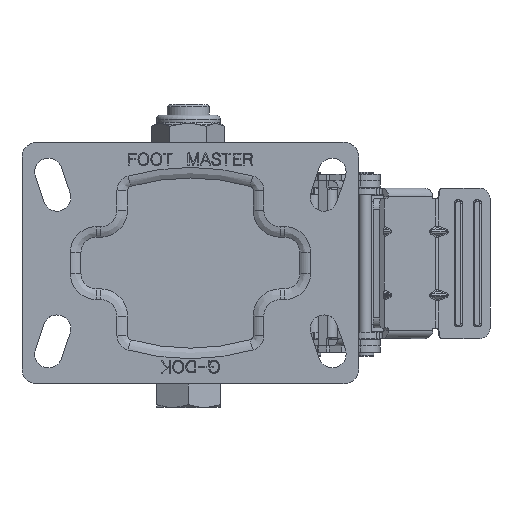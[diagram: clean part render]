
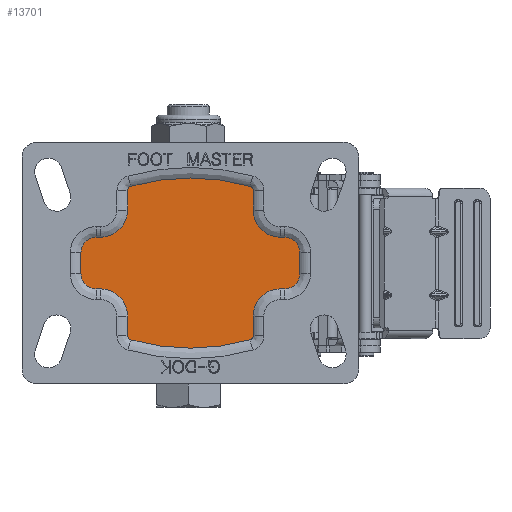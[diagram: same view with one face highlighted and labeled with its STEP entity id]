
A CAD part, top view. The second image highlights one B-rep face of the part: STEP entity #13701.
In plain terms, the highlighted planar face has unit normal (0, 0, 1).
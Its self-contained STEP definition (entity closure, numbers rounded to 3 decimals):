
#13488=CARTESIAN_POINT('',(0.,0.,2.5));
#13489=DIRECTION('',(0.0,0.0,1.0));
#13490=DIRECTION('',(1.0,0.0,0.0));
#13491=AXIS2_PLACEMENT_3D('',#13488,#13489,#13490);
#13492=PLANE('',#13491);
#13493=CARTESIAN_POINT('',(-29.662,-34.164,2.5));
#13494=VERTEX_POINT('',#13493);
#13495=CARTESIAN_POINT('',(-28.092,-36.244,2.5));
#13496=VERTEX_POINT('',#13495);
#13497=CARTESIAN_POINT('',(-27.5,-34.164,2.5));
#13498=DIRECTION('',(0.0,0.0,1.0));
#13499=DIRECTION('',(1.0,0.0,0.0));
#13500=AXIS2_PLACEMENT_3D('',#13497,#13498,#13499);
#13501=CIRCLE('',#13500,2.162);
#13502=EDGE_CURVE('',#13494,#13496,#13501,.T.);
#13503=ORIENTED_EDGE('',*,*,#13502,.T.);
#13504=CARTESIAN_POINT('',(28.092,-36.244,2.5));
#13505=VERTEX_POINT('',#13504);
#13506=CARTESIAN_POINT('',(0.,62.5,2.5));
#13507=DIRECTION('',(0.0,0.0,1.0));
#13508=DIRECTION('',(1.0,0.0,0.0));
#13509=AXIS2_PLACEMENT_3D('',#13506,#13507,#13508);
#13510=CIRCLE('',#13509,102.662);
#13511=EDGE_CURVE('',#13496,#13505,#13510,.T.);
#13512=ORIENTED_EDGE('',*,*,#13511,.T.);
#13513=CARTESIAN_POINT('',(29.662,-34.164,2.5));
#13514=VERTEX_POINT('',#13513);
#13515=CARTESIAN_POINT('',(27.5,-34.164,2.5));
#13516=DIRECTION('',(0.0,0.0,1.0));
#13517=DIRECTION('',(1.0,0.0,0.0));
#13518=AXIS2_PLACEMENT_3D('',#13515,#13516,#13517);
#13519=CIRCLE('',#13518,2.162);
#13520=EDGE_CURVE('',#13505,#13514,#13519,.T.);
#13521=ORIENTED_EDGE('',*,*,#13520,.T.);
#13522=CARTESIAN_POINT('',(29.662,-25.,2.5));
#13523=VERTEX_POINT('',#13522);
#13524=CARTESIAN_POINT('',(29.662,-34.164,2.5));
#13525=DIRECTION('',(0.0,1.0,0.0));
#13526=VECTOR('',#13525,9.164);
#13527=LINE('',#13524,#13526);
#13528=EDGE_CURVE('',#13514,#13523,#13527,.T.);
#13529=ORIENTED_EDGE('',*,*,#13528,.T.);
#13530=CARTESIAN_POINT('',(42.5,-12.162,2.5));
#13531=VERTEX_POINT('',#13530);
#13532=CARTESIAN_POINT('',(42.5,-25.,2.5));
#13533=DIRECTION('',(0.0,0.0,-1.0));
#13534=DIRECTION('',(1.0,0.0,0.0));
#13535=AXIS2_PLACEMENT_3D('',#13532,#13533,#13534);
#13536=CIRCLE('',#13535,12.838);
#13537=EDGE_CURVE('',#13523,#13531,#13536,.T.);
#13538=ORIENTED_EDGE('',*,*,#13537,.T.);
#13539=CARTESIAN_POINT('',(44.5,-12.162,2.5));
#13540=VERTEX_POINT('',#13539);
#13541=CARTESIAN_POINT('',(42.5,-12.162,2.5));
#13542=DIRECTION('',(1.0,0.0,0.0));
#13543=VECTOR('',#13542,2.);
#13544=LINE('',#13541,#13543);
#13545=EDGE_CURVE('',#13531,#13540,#13544,.T.);
#13546=ORIENTED_EDGE('',*,*,#13545,.T.);
#13547=CARTESIAN_POINT('',(51.662,-5.,2.5));
#13548=VERTEX_POINT('',#13547);
#13549=CARTESIAN_POINT('',(44.5,-5.,2.5));
#13550=DIRECTION('',(0.0,0.0,1.0));
#13551=DIRECTION('',(1.0,0.0,0.0));
#13552=AXIS2_PLACEMENT_3D('',#13549,#13550,#13551);
#13553=CIRCLE('',#13552,7.162);
#13554=EDGE_CURVE('',#13540,#13548,#13553,.T.);
#13555=ORIENTED_EDGE('',*,*,#13554,.T.);
#13556=CARTESIAN_POINT('',(51.662,5.,2.5));
#13557=VERTEX_POINT('',#13556);
#13558=CARTESIAN_POINT('',(51.662,-5.,2.5));
#13559=DIRECTION('',(0.0,1.0,0.0));
#13560=VECTOR('',#13559,10.);
#13561=LINE('',#13558,#13560);
#13562=EDGE_CURVE('',#13548,#13557,#13561,.T.);
#13563=ORIENTED_EDGE('',*,*,#13562,.T.);
#13564=CARTESIAN_POINT('',(44.5,12.162,2.5));
#13565=VERTEX_POINT('',#13564);
#13566=CARTESIAN_POINT('',(44.5,5.,2.5));
#13567=DIRECTION('',(0.0,0.0,1.0));
#13568=DIRECTION('',(1.0,0.0,0.0));
#13569=AXIS2_PLACEMENT_3D('',#13566,#13567,#13568);
#13570=CIRCLE('',#13569,7.162);
#13571=EDGE_CURVE('',#13557,#13565,#13570,.T.);
#13572=ORIENTED_EDGE('',*,*,#13571,.T.);
#13573=CARTESIAN_POINT('',(42.5,12.162,2.5));
#13574=VERTEX_POINT('',#13573);
#13575=CARTESIAN_POINT('',(44.5,12.162,2.5));
#13576=DIRECTION('',(-1.0,0.0,0.0));
#13577=VECTOR('',#13576,2.);
#13578=LINE('',#13575,#13577);
#13579=EDGE_CURVE('',#13565,#13574,#13578,.T.);
#13580=ORIENTED_EDGE('',*,*,#13579,.T.);
#13581=CARTESIAN_POINT('',(29.662,25.,2.5));
#13582=VERTEX_POINT('',#13581);
#13583=CARTESIAN_POINT('',(42.5,25.,2.5));
#13584=DIRECTION('',(0.0,0.0,-1.0));
#13585=DIRECTION('',(1.0,0.0,0.0));
#13586=AXIS2_PLACEMENT_3D('',#13583,#13584,#13585);
#13587=CIRCLE('',#13586,12.838);
#13588=EDGE_CURVE('',#13574,#13582,#13587,.T.);
#13589=ORIENTED_EDGE('',*,*,#13588,.T.);
#13590=CARTESIAN_POINT('',(29.662,34.164,2.5));
#13591=VERTEX_POINT('',#13590);
#13592=CARTESIAN_POINT('',(29.662,25.,2.5));
#13593=DIRECTION('',(0.0,1.0,0.0));
#13594=VECTOR('',#13593,9.164);
#13595=LINE('',#13592,#13594);
#13596=EDGE_CURVE('',#13582,#13591,#13595,.T.);
#13597=ORIENTED_EDGE('',*,*,#13596,.T.);
#13598=CARTESIAN_POINT('',(28.092,36.244,2.5));
#13599=VERTEX_POINT('',#13598);
#13600=CARTESIAN_POINT('',(27.5,34.164,2.5));
#13601=DIRECTION('',(0.0,0.0,1.0));
#13602=DIRECTION('',(1.0,0.0,0.0));
#13603=AXIS2_PLACEMENT_3D('',#13600,#13601,#13602);
#13604=CIRCLE('',#13603,2.162);
#13605=EDGE_CURVE('',#13591,#13599,#13604,.T.);
#13606=ORIENTED_EDGE('',*,*,#13605,.T.);
#13607=CARTESIAN_POINT('',(-28.092,36.244,2.5));
#13608=VERTEX_POINT('',#13607);
#13609=CARTESIAN_POINT('',(0.,-62.5,2.5));
#13610=DIRECTION('',(0.0,0.0,1.0));
#13611=DIRECTION('',(1.0,0.0,0.0));
#13612=AXIS2_PLACEMENT_3D('',#13609,#13610,#13611);
#13613=CIRCLE('',#13612,102.662);
#13614=EDGE_CURVE('',#13599,#13608,#13613,.T.);
#13615=ORIENTED_EDGE('',*,*,#13614,.T.);
#13616=CARTESIAN_POINT('',(-29.662,34.164,2.5));
#13617=VERTEX_POINT('',#13616);
#13618=CARTESIAN_POINT('',(-27.5,34.164,2.5));
#13619=DIRECTION('',(0.0,0.0,1.0));
#13620=DIRECTION('',(1.0,0.0,0.0));
#13621=AXIS2_PLACEMENT_3D('',#13618,#13619,#13620);
#13622=CIRCLE('',#13621,2.162);
#13623=EDGE_CURVE('',#13608,#13617,#13622,.T.);
#13624=ORIENTED_EDGE('',*,*,#13623,.T.);
#13625=CARTESIAN_POINT('',(-29.662,25.,2.5));
#13626=VERTEX_POINT('',#13625);
#13627=CARTESIAN_POINT('',(-29.662,34.164,2.5));
#13628=DIRECTION('',(0.0,-1.0,0.0));
#13629=VECTOR('',#13628,9.164);
#13630=LINE('',#13627,#13629);
#13631=EDGE_CURVE('',#13617,#13626,#13630,.T.);
#13632=ORIENTED_EDGE('',*,*,#13631,.T.);
#13633=CARTESIAN_POINT('',(-42.5,12.162,2.5));
#13634=VERTEX_POINT('',#13633);
#13635=CARTESIAN_POINT('',(-42.5,25.,2.5));
#13636=DIRECTION('',(0.0,0.0,-1.0));
#13637=DIRECTION('',(1.0,0.0,0.0));
#13638=AXIS2_PLACEMENT_3D('',#13635,#13636,#13637);
#13639=CIRCLE('',#13638,12.838);
#13640=EDGE_CURVE('',#13626,#13634,#13639,.T.);
#13641=ORIENTED_EDGE('',*,*,#13640,.T.);
#13642=CARTESIAN_POINT('',(-44.5,12.162,2.5));
#13643=VERTEX_POINT('',#13642);
#13644=CARTESIAN_POINT('',(-42.5,12.162,2.5));
#13645=DIRECTION('',(-1.0,0.0,0.0));
#13646=VECTOR('',#13645,2.);
#13647=LINE('',#13644,#13646);
#13648=EDGE_CURVE('',#13634,#13643,#13647,.T.);
#13649=ORIENTED_EDGE('',*,*,#13648,.T.);
#13650=CARTESIAN_POINT('',(-51.662,5.,2.5));
#13651=VERTEX_POINT('',#13650);
#13652=CARTESIAN_POINT('',(-44.5,5.,2.5));
#13653=DIRECTION('',(0.0,0.0,1.0));
#13654=DIRECTION('',(1.0,0.0,0.0));
#13655=AXIS2_PLACEMENT_3D('',#13652,#13653,#13654);
#13656=CIRCLE('',#13655,7.162);
#13657=EDGE_CURVE('',#13643,#13651,#13656,.T.);
#13658=ORIENTED_EDGE('',*,*,#13657,.T.);
#13659=CARTESIAN_POINT('',(-51.662,-5.,2.5));
#13660=VERTEX_POINT('',#13659);
#13661=CARTESIAN_POINT('',(-51.662,5.,2.5));
#13662=DIRECTION('',(0.0,-1.0,0.0));
#13663=VECTOR('',#13662,10.0);
#13664=LINE('',#13661,#13663);
#13665=EDGE_CURVE('',#13651,#13660,#13664,.T.);
#13666=ORIENTED_EDGE('',*,*,#13665,.T.);
#13667=CARTESIAN_POINT('',(-44.5,-12.162,2.5));
#13668=VERTEX_POINT('',#13667);
#13669=CARTESIAN_POINT('',(-44.5,-5.,2.5));
#13670=DIRECTION('',(0.0,0.0,1.0));
#13671=DIRECTION('',(1.0,0.0,0.0));
#13672=AXIS2_PLACEMENT_3D('',#13669,#13670,#13671);
#13673=CIRCLE('',#13672,7.162);
#13674=EDGE_CURVE('',#13660,#13668,#13673,.T.);
#13675=ORIENTED_EDGE('',*,*,#13674,.T.);
#13676=CARTESIAN_POINT('',(-42.5,-12.162,2.5));
#13677=VERTEX_POINT('',#13676);
#13678=CARTESIAN_POINT('',(-44.5,-12.162,2.5));
#13679=DIRECTION('',(1.0,0.0,0.0));
#13680=VECTOR('',#13679,2.);
#13681=LINE('',#13678,#13680);
#13682=EDGE_CURVE('',#13668,#13677,#13681,.T.);
#13683=ORIENTED_EDGE('',*,*,#13682,.T.);
#13684=CARTESIAN_POINT('',(-29.662,-25.,2.5));
#13685=VERTEX_POINT('',#13684);
#13686=CARTESIAN_POINT('',(-42.5,-25.,2.5));
#13687=DIRECTION('',(0.0,0.0,-1.0));
#13688=DIRECTION('',(1.0,0.0,0.0));
#13689=AXIS2_PLACEMENT_3D('',#13686,#13687,#13688);
#13690=CIRCLE('',#13689,12.838);
#13691=EDGE_CURVE('',#13677,#13685,#13690,.T.);
#13692=ORIENTED_EDGE('',*,*,#13691,.T.);
#13693=CARTESIAN_POINT('',(-29.662,-25.,2.5));
#13694=DIRECTION('',(0.0,-1.0,0.0));
#13695=VECTOR('',#13694,9.164);
#13696=LINE('',#13693,#13695);
#13697=EDGE_CURVE('',#13685,#13494,#13696,.T.);
#13698=ORIENTED_EDGE('',*,*,#13697,.T.);
#13699=EDGE_LOOP('',(#13503,#13512,#13521,#13529,#13538,#13546,#13555,#13563,#13572,#13580,#13589,#13597,#13606,#13615,#13624,#13632,#13641,#13649,#13658,#13666,#13675,#13683,#13692,#13698));
#13700=FACE_OUTER_BOUND('',#13699,.T.);
#13701=ADVANCED_FACE('',(#13700),#13492,.T.);
